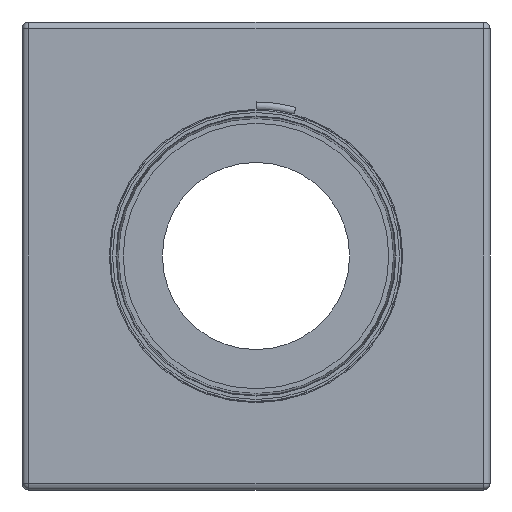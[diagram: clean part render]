
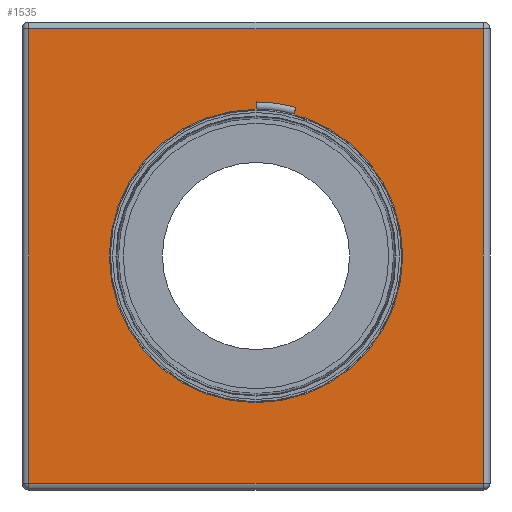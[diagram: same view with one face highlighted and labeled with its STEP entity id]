
A CAD part, front view. The second image highlights one B-rep face of the part: STEP entity #1535.
In plain terms, the highlighted planar face has unit normal (0, -1, 0).
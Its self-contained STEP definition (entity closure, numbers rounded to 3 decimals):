
#81=FACE_BOUND('',#369,.T.);
#140=PLANE('',#1725);
#223=FACE_OUTER_BOUND('',#368,.T.);
#368=EDGE_LOOP('',(#1221,#1222,#1223,#1224));
#369=EDGE_LOOP('',(#1225));
#490=LINE('',#2526,#554);
#494=LINE('',#2546,#558);
#496=LINE('',#2549,#560);
#502=LINE('',#2558,#566);
#554=VECTOR('',#2055,10.);
#558=VECTOR('',#2079,10.);
#560=VECTOR('',#2083,10.);
#566=VECTOR('',#2095,10.);
#656=CIRCLE('',#1726,210.);
#755=VERTEX_POINT('',#2483);
#764=VERTEX_POINT('',#2507);
#767=VERTEX_POINT('',#2517);
#773=VERTEX_POINT('',#2537);
#775=VERTEX_POINT('',#2569);
#918=EDGE_CURVE('',#755,#767,#490,.T.);
#928=EDGE_CURVE('',#767,#773,#494,.T.);
#930=EDGE_CURVE('',#773,#764,#496,.T.);
#936=EDGE_CURVE('',#764,#755,#502,.T.);
#942=EDGE_CURVE('',#775,#775,#656,.T.);
#1221=ORIENTED_EDGE('',*,*,#918,.F.);
#1222=ORIENTED_EDGE('',*,*,#936,.F.);
#1223=ORIENTED_EDGE('',*,*,#930,.F.);
#1224=ORIENTED_EDGE('',*,*,#928,.F.);
#1225=ORIENTED_EDGE('',*,*,#942,.T.);
#1535=ADVANCED_FACE('',(#223,#81),#140,.T.);
#1725=AXIS2_PLACEMENT_3D('',#2568,#2109,#2110);
#1726=AXIS2_PLACEMENT_3D('',#2570,#2111,#2112);
#2055=DIRECTION('',(0.,0.,1.));
#2079=DIRECTION('',(1.,0.,0.));
#2083=DIRECTION('',(0.,0.,-1.));
#2095=DIRECTION('',(-1.,0.,0.));
#2109=DIRECTION('center_axis',(0.,-1.,0.));
#2110=DIRECTION('ref_axis',(0.,0.,-1.));
#2111=DIRECTION('center_axis',(0.,1.,0.));
#2112=DIRECTION('ref_axis',(0.,0.,1.));
#2483=CARTESIAN_POINT('',(-325.,-335.,-325.));
#2507=CARTESIAN_POINT('',(325.,-335.,-325.));
#2517=CARTESIAN_POINT('',(-325.,-335.,325.));
#2526=CARTESIAN_POINT('',(-325.,-335.,-167.5));
#2537=CARTESIAN_POINT('',(325.,-335.,325.));
#2546=CARTESIAN_POINT('',(-167.5,-335.,325.));
#2549=CARTESIAN_POINT('',(325.,-335.,167.5));
#2558=CARTESIAN_POINT('',(167.5,-335.,-325.));
#2568=CARTESIAN_POINT('Origin',(0.,-335.,0.));
#2569=CARTESIAN_POINT('',(0.,-335.,210.));
#2570=CARTESIAN_POINT('Origin',(0.,-335.,0.));
